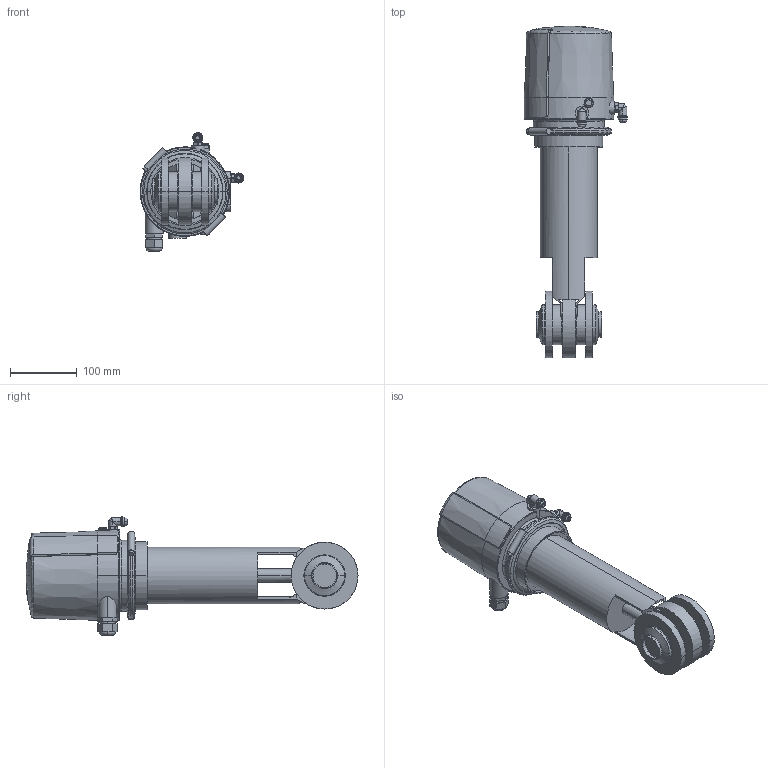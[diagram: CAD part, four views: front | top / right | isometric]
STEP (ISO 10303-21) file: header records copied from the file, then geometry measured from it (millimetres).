
FILE_DESCRIPTION(('Creo Elements/Direct Modeling STEP Export'),'2;1');
FILE_NAME('SVS1F-1.5zoll-CU4.stp','2013-05-24T11:36:05',(''),(''),'Creo Elements/Direct Modeling STEP processor for AP214 (Solid Model)','Creo Elements/Direct Modeling 17.0D 15-Jul-2011 (C) Parametric Technology GmbH','');
FILE_SCHEMA(('AUTOMOTIVE_DESIGN { 1 0 10303 214 1 1 1 1 }'));
Length unit declared in the file: millimetre
Products named in the file (4): SVS1F1.5zoll; CU41-mit-T-Adapter; SVS1F1.5zoll-CU4; SVS1F-1.5zoll-CU4.stp
Assembly tree (3 placements, depth 3):
  SVS1F-1.5zoll-CU4.stp
    SVS1F1.5zoll-CU4
      CU41-mit-T-Adapter
      SVS1F1.5zoll
Bounding box: 155.4 x 496.94 x 177.6 mm (x, y, z)
Volume: 3539419.8 mm3; surface area: 273811.4 mm2
Topology: 2 solids, 8 shells, 469 faces, 1167 edges, 737 vertices
Faces by surface type: plane 215, cylinder 147, torus 51, cone 40, bspline 10, sphere 6
Entity records: 21981 total; most frequent: CARTESIAN_POINT 10532, ORIENTED_EDGE 2346, DIRECTION 2069, EDGE_CURVE 1165, AXIS2_PLACEMENT_3D 788, VERTEX_POINT 737, EDGE_LOOP 520, VECTOR 493
